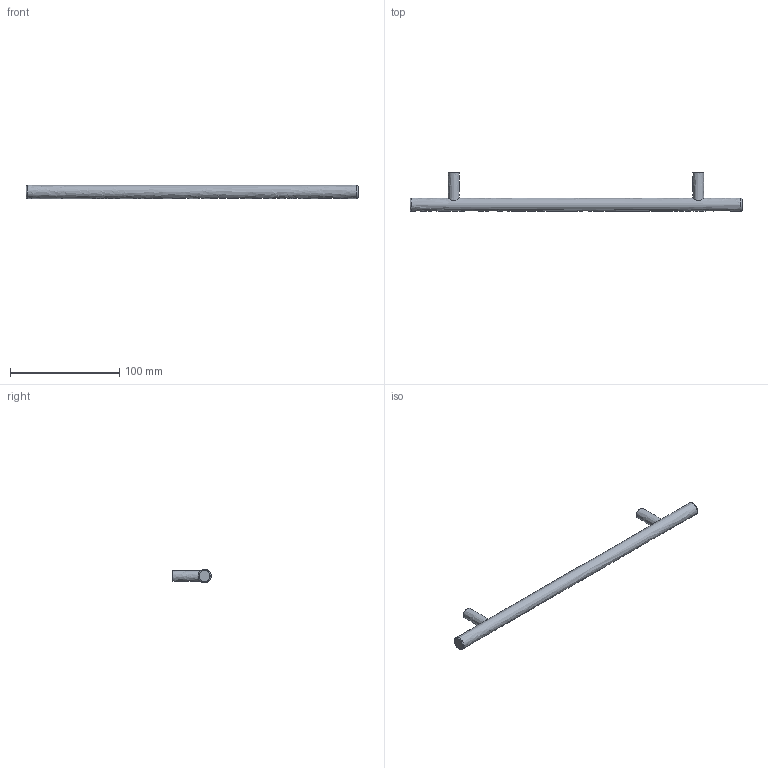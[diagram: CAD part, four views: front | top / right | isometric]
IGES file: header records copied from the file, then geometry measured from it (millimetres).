
Start section: Data from Parasolid IGES Translator 15.0.47, Copyright(c) 2006 Siemens P LM Software. All Rights Reserved.
Global section: file name: 9070763.igs; native system:  By UGS Corp.; preprocessor: XPlus GENERIC/IGES 3.0; author: Noname; organization: Noname; date: 20140123.103853; units: millimetre
Bounding box: 304 x 35 x 12 mm (x, y, z)
Surface area: 13358.3 mm2 (no closed solid volume)
Topology: 0 solids, 0 shells, 13 faces, 42 edges, 34 vertices
Faces by surface type: revolution 7, extrusion 6
